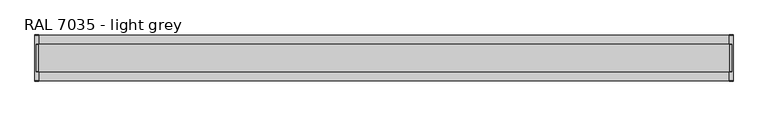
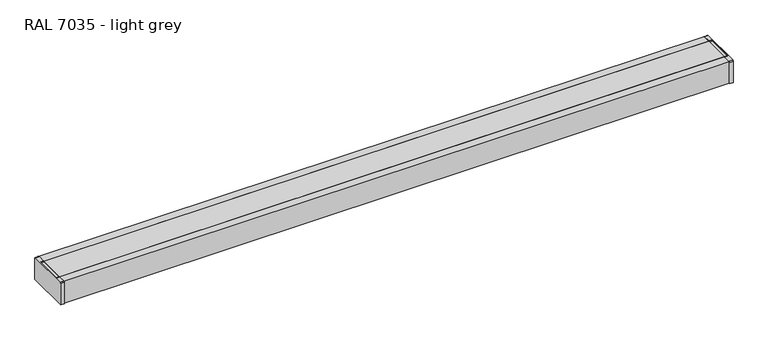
"""IFC4 building model written with IfcOpenShell, lengths in millimetres: proxy geometry, Electrical_Installations_Hager_BRP-Lid-End-Cap-One-Compartment : RAL 7035 - light grey."""

from ifc_helpers import new_model, si_unit, frame, origin, place, context, project, spatial, polyline, circle_curve, outline, extrude, source, transform, mapped, element, save
from ifc_brep_helpers import plane_surface, cylinder_surface, revolved_surface, advanced_brep


def ral_7035_light_grey_59abf085(model_context):
    return source(origin(), model_context, "Body", "SolidModel", [
        advanced_brep(
        [(2001.7057953, 66.25, 30.95), (2001.7057953, 63.25, 33.95), (2001.7057953, -63.25, 33.95), (2001.7057953, -66.25, 30.95), (2001.7057953, -66.25, -36.15), (2001.7057953, 66.25, -36.15), (2000.0, 41.3486227, 33.95), (2000.0, 39.7831004, 32.5816692), (2000.0, 38.8540942, 31.8477982), (2000.0, -38.8540942, 31.8477982), (2000.0, -39.8003006, 32.7991169), (2000.0, -40.8849518, 33.95), (2000.0, -65.25, -36.15), (2000.0, -65.25, 30.893231), (2000.0, -63.2258096, 32.9174214), (2000.0, -41.5797272, 32.9174214), (2000.0, -40.6819986, 32.1076317), (2000.0, -38.8211594, 30.840625), (2000.0, 38.8211594, 30.840625), (2000.0, 40.6819986, 32.1076317), (2000.0, 41.5797272, 32.9174214), (2000.0, 63.1823332, 32.9174214), (2000.0, 65.2065236, 30.893231), (2000.0, 65.2065236, -36.15), (1990.7057953, 66.25, -36.15), (1990.7057953, 66.25, 30.9198795), (2000.0, 66.25, 30.9198795), (2000.0, -66.25, 30.95), (1990.7057953, -66.25, 30.9423146), (1990.7057953, -66.25, -36.15), (2000.0, 63.25, 33.95), (1990.7057953, 63.2198795, 33.95), (1990.7057953, 41.3486227, 33.95), (1990.7057953, -40.8849518, 33.95), (1990.7057953, -63.2423146, 33.95), (2000.0, -63.2423146, 33.95), (1990.7057953, 38.8540942, 31.8477982), (1990.7057953, 39.7831004, 32.5816692), (1990.7057953, 65.2065236, -36.15), (1990.7057953, 65.2065236, 30.893231), (1990.7057953, 63.1823332, 32.9174214), (1990.7057953, 41.5797272, 32.9174214), (1990.7057953, 40.6819986, 32.1076317), (1990.7057953, 38.8211594, 30.840625), (1990.7057953, -38.8211594, 30.840625), (1990.7057953, -40.6819986, 32.1076317), (1990.7057953, -41.5797272, 32.9174214), (1990.7057953, -63.2258096, 32.9174214), (1990.7057953, -65.25, 30.893231), (1990.7057953, -65.25, -36.15), (1990.7057953, -39.8003006, 32.7991169), (1990.7057953, -38.8540942, 31.8477982)],
        [
            (0, 1, circle_curve(frame((2001.7057953, 63.25, 30.95), z_axis=(1.0, 0.0, 0.0), x_axis=(0.0, 1.0, 0.0)), 3.0)),
            (1, 2),
            (2, 3, circle_curve(frame((2001.7057953, -63.25, 30.95), z_axis=(1.0, 0.0, 0.0), x_axis=(0.0, 1.0, 0.0)), 3.0)),
            (3, 4),
            (4, 5),
            (5, 0),
            (6, 7, circle_curve(frame((2000.0, 41.5321879, 32.16025), z_axis=(1.0, 0.0, 0.0), x_axis=(0.0, 0.0, -1.0)), 1.799139)),
            (7, 8, circle_curve(frame((2000.0, 38.8540942, 32.8027473), z_axis=(-1.0, 0.0, 0.0), x_axis=(0.0, 0.0, -1.0)), 0.9549491)),
            (8, 9),
            (9, 10, circle_curve(frame((2000.0, -38.8540942, 32.7940183), z_axis=(-1.0, 0.0, 0.0), x_axis=(0.0, 0.0, -1.0)), 0.9462201)),
            (10, 11, circle_curve(frame((2000.0, -41.5602767, 32.2269822), z_axis=(1.0, 0.0, 0.0), x_axis=(0.0, 0.0, -1.0)), 1.8506361)),
            (11, 6),
            (12, 13),
            (13, 14, circle_curve(frame((2000.0, -63.2258096, 30.893231), z_axis=(-1.0, 0.0, 0.0), x_axis=(0.0, 0.0, -1.0)), 2.0241904)),
            (14, 15),
            (15, 16, circle_curve(frame((2000.0, -41.5797272, 32.014918), z_axis=(-1.0, 0.0, 0.0), x_axis=(0.0, 0.0, -1.0)), 0.9025034)),
            (16, 17, circle_curve(frame((2000.0, -38.8211594, 32.8406257), z_axis=(1.0, 0.0, 0.0), x_axis=(0.0, 0.0, -1.0)), 2.0000007)),
            (17, 18),
            (18, 19, circle_curve(frame((2000.0, 38.8211594, 32.8406257), z_axis=(1.0, 0.0, 0.0), x_axis=(0.0, 0.0, -1.0)), 2.0000007)),
            (19, 20, circle_curve(frame((2000.0, 41.5797272, 32.014918), z_axis=(-1.0, 0.0, 0.0), x_axis=(0.0, 0.0, -1.0)), 0.9025034)),
            (20, 21),
            (21, 22, circle_curve(frame((2000.0, 63.1823332, 30.893231), z_axis=(-1.0, 0.0, 0.0), x_axis=(0.0, 0.0, -1.0)), 2.0241904)),
            (22, 23),
            (23, 12),
            (5, 24),
            (24, 25),
            (25, 26),
            (26, 0),
            (3, 27),
            (27, 28),
            (28, 29),
            (29, 4),
            (1, 30),
            (30, 31),
            (31, 32),
            (32, 6),
            (11, 33),
            (33, 34),
            (34, 35),
            (35, 2),
            (36, 37, circle_curve(frame((1990.7057953, 38.8540942, 32.8027473), z_axis=(1.0, 0.0, 0.0), x_axis=(0.0, 0.0, -1.0)), 0.9549491)),
            (37, 32, circle_curve(frame((1990.7057953, 41.5321879, 32.16025), z_axis=(-1.0, 0.0, 0.0), x_axis=(0.0, 0.0, -1.0)), 1.799139)),
            (31, 25, circle_curve(frame((1990.7057953, 63.2198795, 30.9198795), z_axis=(-1.0, 0.0, 0.0), x_axis=(0.0, 0.0, -1.0)), 3.0301205)),
            (24, 38),
            (38, 39),
            (39, 40, circle_curve(frame((1990.7057953, 63.1823332, 30.893231), z_axis=(1.0, 0.0, 0.0), x_axis=(0.0, 0.0, -1.0)), 2.0241904)),
            (40, 41),
            (41, 42, circle_curve(frame((1990.7057953, 41.5797272, 32.014918), z_axis=(1.0, 0.0, 0.0), x_axis=(0.0, 0.0, -1.0)), 0.9025034)),
            (42, 43, circle_curve(frame((1990.7057953, 38.8211594, 32.8406257), z_axis=(-1.0, 0.0, 0.0), x_axis=(0.0, 0.0, -1.0)), 2.0000007)),
            (43, 44),
            (44, 45, circle_curve(frame((1990.7057953, -38.8211594, 32.8406257), z_axis=(-1.0, 0.0, 0.0), x_axis=(0.0, 0.0, -1.0)), 2.0000007)),
            (45, 46, circle_curve(frame((1990.7057953, -41.5797272, 32.014918), z_axis=(1.0, 0.0, 0.0), x_axis=(0.0, 0.0, -1.0)), 0.9025034)),
            (46, 47),
            (47, 48, circle_curve(frame((1990.7057953, -63.2258096, 30.893231), z_axis=(1.0, 0.0, 0.0), x_axis=(0.0, 0.0, -1.0)), 2.0241904)),
            (48, 49),
            (49, 29),
            (28, 34, circle_curve(frame((1990.7057953, -63.2423146, 30.9423146), z_axis=(-1.0, 0.0, 0.0), x_axis=(0.0, 0.0, -1.0)), 3.0076854)),
            (33, 50, circle_curve(frame((1990.7057953, -41.5602767, 32.2269822), z_axis=(-1.0, 0.0, 0.0), x_axis=(0.0, 0.0, -1.0)), 1.8506361)),
            (50, 51, circle_curve(frame((1990.7057953, -38.8540942, 32.7940183), z_axis=(1.0, 0.0, 0.0), x_axis=(0.0, 0.0, -1.0)), 0.9462201)),
            (51, 36),
            (36, 8),
            (7, 37),
            (30, 26, circle_curve(frame((2000.0, 63.2198795, 30.9198795), z_axis=(-1.0, 0.0, 0.0), x_axis=(0.0, 0.0, -1.0)), 3.0301205)),
            (38, 23),
            (22, 39),
            (21, 40),
            (20, 41),
            (19, 42),
            (18, 43),
            (17, 44),
            (16, 45),
            (15, 46),
            (14, 47),
            (13, 48),
            (12, 49),
            (27, 35, circle_curve(frame((2000.0, -63.2423146, 30.9423146), z_axis=(-1.0, 0.0, 0.0), x_axis=(0.0, 0.0, -1.0)), 3.0076854)),
            (10, 50),
            (9, 51),
        ],
        [
            plane_surface(frame((2001.7057953, 66.25, -36.15), z_axis=(1.0, 0.0, 0.0), x_axis=(0.0, 0.0, -1.0))),
            plane_surface(frame((2000.0, 66.25, -36.15), z_axis=(-1.0, 0.0, 0.0), x_axis=(0.0, 0.0, 1.0))),
            plane_surface(frame((2001.7057953, 66.25, 30.95), z_axis=(0.0, 1.0, 0.0), x_axis=(-1.0, 0.0, 0.0))),
            plane_surface(frame((2001.7057953, -66.25, -36.15), z_axis=(0.0, -1.0, 0.0), x_axis=(-1.0, 0.0, 0.0))),
            plane_surface(frame((2001.7057953, -63.25, 33.95), z_axis=(0.0, 0.0, 1.0), x_axis=(-1.0, 0.0, 0.0))),
            plane_surface(frame((1990.7057953, -32.5, -0.05), z_axis=(-1.0, 0.0, 0.0), x_axis=(0.0, 0.0, -1.0))),
            revolved_surface(polyline([(1990.7057953, 38.8540942, 31.8477982), (2000.0, 38.8540942, 31.8477982)]), (2000.0, 38.8540942, 32.8027473), (-1.0, 0.0, 0.0)),
            cylinder_surface(frame((2000.0, 41.5321879, 32.16025), z_axis=(1.0, 0.0, 0.0), x_axis=(0.0, 0.0, -1.0)), 1.799139),
            cylinder_surface(frame((2000.0, 63.2198795, 30.9198795), z_axis=(1.0, 0.0, 0.0), x_axis=(0.0, 0.0, -1.0)), 3.0301205),
            plane_surface(frame((2000.0, 65.2065236, -36.15), z_axis=(0.0, -1.0, 0.0), x_axis=(-1.0, 0.0, 0.0))),
            revolved_surface(polyline([(1990.7057953, 63.1823332, 28.869040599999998), (2000.0, 63.1823332, 28.869040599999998)]), (2000.0, 63.1823332, 30.893231), (-1.0, 0.0, 0.0)),
            plane_surface(frame((2000.0, 63.1823332, 32.9174214), z_axis=(0.0, 0.0, -1.0), x_axis=(-1.0, 0.0, 0.0))),
            revolved_surface(polyline([(1990.7057953, 41.5797272, 31.1124146), (2000.0, 41.5797272, 31.1124146)]), (2000.0, 41.5797272, 32.014918), (-1.0, 0.0, 0.0)),
            cylinder_surface(frame((2000.0, 38.8211594, 32.8406257), z_axis=(1.0, 0.0, 0.0), x_axis=(0.0, 0.0, -1.0)), 2.0000007),
            plane_surface(frame((2000.0, 38.8211594, 30.840625), z_axis=(0.0, 0.0, -1.0), x_axis=(-1.0, 0.0, 0.0))),
            cylinder_surface(frame((2000.0, -38.8211594, 32.8406257), z_axis=(1.0, 0.0, 0.0), x_axis=(0.0, 0.0, -1.0)), 2.0000007),
            revolved_surface(polyline([(1990.7057953, -41.5797272, 31.1124146), (2000.0, -41.5797272, 31.1124146)]), (2000.0, -41.5797272, 32.014918), (-1.0, 0.0, 0.0)),
            plane_surface(frame((2000.0, -41.5797272, 32.9174214), z_axis=(0.0, 0.0, -1.0), x_axis=(-1.0, 0.0, 0.0))),
            revolved_surface(polyline([(1990.7057953, -63.2258096, 28.869040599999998), (2000.0, -63.2258096, 28.869040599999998)]), (2000.0, -63.2258096, 30.893231), (-1.0, 0.0, 0.0)),
            plane_surface(frame((2000.0, -65.25, 30.893231), z_axis=(0.0, 1.0, 0.0), x_axis=(-1.0, 0.0, 0.0))),
            cylinder_surface(frame((2000.0, -63.2423146, 30.9423146), z_axis=(1.0, 0.0, 0.0), x_axis=(0.0, 0.0, -1.0)), 3.0076854),
            cylinder_surface(frame((2000.0, -41.5602767, 32.2269822), z_axis=(1.0, 0.0, 0.0), x_axis=(0.0, 0.0, -1.0)), 1.8506361),
            revolved_surface(polyline([(1990.7057953, -38.8540942, 31.847798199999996), (2000.0, -38.8540942, 31.847798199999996)]), (2000.0, -38.8540942, 32.7940183), (-1.0, 0.0, 0.0)),
            plane_surface(frame((2000.0, -38.8540942, 31.8477982), z_axis=(0.0, 0.0, 1.0), x_axis=(-1.0, 0.0, 0.0))),
            cylinder_surface(frame((2000.0, -63.25, 30.95), z_axis=(1.0, 0.0, 0.0), x_axis=(0.0, 1.0, 0.0)), 3.0),
            cylinder_surface(frame((2000.0, 63.25, 30.95), z_axis=(1.0, 0.0, 0.0), x_axis=(0.0, 1.0, 0.0)), 3.0),
            plane_surface(frame((2001.7057953, 66.25, -36.15), z_axis=(0.0, 0.0, -1.0), x_axis=(-1.0, 0.0, 0.0))),
        ],
        [
            (0, [[1, 2, 3, 4, 5, 6]]),
            (1, [[7, 8, 9, 10, 11, 12]]),
            (1, [[13, 14, 15, 16, 17, 18, 19, 20, 21, 22, 23, 24]]),
            (2, [[25, 26, 27, 28, -6]]),
            (3, [[29, 30, 31, 32, -4]]),
            (4, [[33, 34, 35, 36, -12, 37, 38, 39, 40, -2]]),
            (5, [[41, 42, -35, 43, -26, 44, 45, 46, 47, 48, 49, 50, 51, 52, 53, 54, 55, 56, -31, 57, -38, 58, 59, 60]]),
            (6, [[61, -8, 62, -41]]),
            (7, [[-62, -7, -36, -42]]),
            (8, [[-34, 63, -27, -43]]),
            (9, [[64, -23, 65, -45]]),
            (10, [[-65, -22, 66, -46]]),
            (11, [[-66, -21, 67, -47]]),
            (12, [[-67, -20, 68, -48]]),
            (13, [[-68, -19, 69, -49]]),
            (14, [[-69, -18, 70, -50]]),
            (15, [[-70, -17, 71, -51]]),
            (16, [[-71, -16, 72, -52]]),
            (17, [[-72, -15, 73, -53]]),
            (18, [[-73, -14, 74, -54]]),
            (19, [[-74, -13, 75, -55]]),
            (20, [[-30, 76, -39, -57]]),
            (21, [[-37, -11, 77, -58]]),
            (22, [[-77, -10, 78, -59]]),
            (23, [[-78, -9, -61, -60]]),
            (24, [[-40, -76, -29, -3]]),
            (25, [[-28, -63, -33, -1]]),
            (26, [[-56, -75, -24, -64, -44, -25, -5, -32]]),
        ],
    ),
        advanced_brep(
        [(-1.7057953, 66.25, 30.95), (-1.7057953, 66.25, -36.15), (-1.7057953, -66.25, -36.15), (-1.7057953, -66.25, 30.95), (-1.7057953, -63.25, 33.95), (-1.7057953, 63.25, 33.95), (0.0, 41.3486227, 33.95), (0.0, -40.8849518, 33.95), (0.0, -39.8003006, 32.7991169), (0.0, -38.8540942, 31.8477982), (0.0, 38.8540942, 31.8477982), (0.0, 39.7831004, 32.5816692), (0.0, -65.25, -36.15), (0.0, 65.2065236, -36.15), (0.0, 65.2065236, 30.893231), (0.0, 63.1823332, 32.9174214), (0.0, 41.5797272, 32.9174214), (0.0, 40.6819986, 32.1076317), (0.0, 38.8211594, 30.840625), (0.0, -38.8211594, 30.840625), (0.0, -40.6819986, 32.1076317), (0.0, -41.5797272, 32.9174214), (0.0, -63.2258096, 32.9174214), (0.0, -65.25, 30.893231), (0.0, 66.25, 30.95), (9.2942047, 66.25, 30.9198795), (9.2942047, 66.25, -36.15), (9.2942047, -66.25, -36.15), (9.2942047, -66.25, 30.9423146), (0.0, -66.25, 30.9423146), (0.0, -63.25, 33.95), (9.2942047, -63.2423146, 33.95), (9.2942047, -40.8849518, 33.95), (9.2942047, 41.3486227, 33.95), (9.2942047, 63.2198795, 33.95), (0.0, 63.2198795, 33.95), (9.2942047, 38.8540942, 31.8477982), (9.2942047, -38.8540942, 31.8477982), (9.2942047, -39.8003006, 32.7991169), (9.2942047, -65.25, -36.15), (9.2942047, -65.25, 30.893231), (9.2942047, -63.2258096, 32.9174214), (9.2942047, -41.5797272, 32.9174214), (9.2942047, -40.6819986, 32.1076317), (9.2942047, -38.8211594, 30.840625), (9.2942047, 38.8211594, 30.840625), (9.2942047, 40.6819986, 32.1076317), (9.2942047, 41.5797272, 32.9174214), (9.2942047, 63.1823332, 32.9174214), (9.2942047, 65.2065236, 30.893231), (9.2942047, 65.2065236, -36.15), (9.2942047, 39.7831004, 32.5816692)],
        [
            (0, 1),
            (1, 2),
            (2, 3),
            (3, 4, circle_curve(frame((-1.7057953, -63.25, 30.95), z_axis=(-1.0, 0.0, 0.0), x_axis=(0.0, 1.0, 0.0)), 3.0)),
            (4, 5),
            (5, 0, circle_curve(frame((-1.7057953, 63.25, 30.95), z_axis=(-1.0, 0.0, 0.0), x_axis=(0.0, 1.0, 0.0)), 3.0)),
            (6, 7),
            (7, 8, circle_curve(frame((0.0, -41.5602767, 32.2269822), z_axis=(-1.0, 0.0, 0.0), x_axis=(0.0, 0.0, -1.0)), 1.8506361)),
            (8, 9, circle_curve(frame((0.0, -38.8540942, 32.7940183), z_axis=(1.0, 0.0, 0.0), x_axis=(0.0, 0.0, -1.0)), 0.9462201)),
            (9, 10),
            (10, 11, circle_curve(frame((0.0, 38.8540942, 32.8027473), z_axis=(1.0, 0.0, 0.0), x_axis=(0.0, 0.0, -1.0)), 0.9549491)),
            (11, 6, circle_curve(frame((0.0, 41.5321879, 32.16025), z_axis=(-1.0, 0.0, 0.0), x_axis=(0.0, 0.0, -1.0)), 1.799139)),
            (12, 13),
            (13, 14),
            (14, 15, circle_curve(frame((0.0, 63.1823332, 30.893231), z_axis=(1.0, 0.0, 0.0), x_axis=(0.0, 0.0, -1.0)), 2.0241904)),
            (15, 16),
            (16, 17, circle_curve(frame((0.0, 41.5797272, 32.014918), z_axis=(1.0, 0.0, 0.0), x_axis=(0.0, 0.0, -1.0)), 0.9025034)),
            (17, 18, circle_curve(frame((0.0, 38.8211594, 32.8406257), z_axis=(-1.0, 0.0, 0.0), x_axis=(0.0, 0.0, -1.0)), 2.0000007)),
            (18, 19),
            (19, 20, circle_curve(frame((0.0, -38.8211594, 32.8406257), z_axis=(-1.0, 0.0, 0.0), x_axis=(0.0, 0.0, -1.0)), 2.0000007)),
            (20, 21, circle_curve(frame((0.0, -41.5797272, 32.014918), z_axis=(1.0, 0.0, 0.0), x_axis=(0.0, 0.0, -1.0)), 0.9025034)),
            (21, 22),
            (22, 23, circle_curve(frame((0.0, -63.2258096, 30.893231), z_axis=(1.0, 0.0, 0.0), x_axis=(0.0, 0.0, -1.0)), 2.0241904)),
            (23, 12),
            (0, 24),
            (24, 25),
            (25, 26),
            (26, 1),
            (2, 27),
            (27, 28),
            (28, 29),
            (29, 3),
            (4, 30),
            (30, 31),
            (31, 32),
            (32, 7),
            (6, 33),
            (33, 34),
            (34, 35),
            (35, 5),
            (36, 37),
            (37, 38, circle_curve(frame((9.2942047, -38.8540942, 32.7940183), z_axis=(-1.0, 0.0, 0.0), x_axis=(0.0, 0.0, -1.0)), 0.9462201)),
            (38, 32, circle_curve(frame((9.2942047, -41.5602767, 32.2269822), z_axis=(1.0, 0.0, 0.0), x_axis=(0.0, 0.0, -1.0)), 1.8506361)),
            (31, 28, circle_curve(frame((9.2942047, -63.2423146, 30.9423146), z_axis=(1.0, 0.0, 0.0), x_axis=(0.0, 0.0, -1.0)), 3.0076854)),
            (27, 39),
            (39, 40),
            (40, 41, circle_curve(frame((9.2942047, -63.2258096, 30.893231), z_axis=(-1.0, 0.0, 0.0), x_axis=(0.0, 0.0, -1.0)), 2.0241904)),
            (41, 42),
            (42, 43, circle_curve(frame((9.2942047, -41.5797272, 32.014918), z_axis=(-1.0, 0.0, 0.0), x_axis=(0.0, 0.0, -1.0)), 0.9025034)),
            (43, 44, circle_curve(frame((9.2942047, -38.8211594, 32.8406257), z_axis=(1.0, 0.0, 0.0), x_axis=(0.0, 0.0, -1.0)), 2.0000007)),
            (44, 45),
            (45, 46, circle_curve(frame((9.2942047, 38.8211594, 32.8406257), z_axis=(1.0, 0.0, 0.0), x_axis=(0.0, 0.0, -1.0)), 2.0000007)),
            (46, 47, circle_curve(frame((9.2942047, 41.5797272, 32.014918), z_axis=(-1.0, 0.0, 0.0), x_axis=(0.0, 0.0, -1.0)), 0.9025034)),
            (47, 48),
            (48, 49, circle_curve(frame((9.2942047, 63.1823332, 30.893231), z_axis=(-1.0, 0.0, 0.0), x_axis=(0.0, 0.0, -1.0)), 2.0241904)),
            (49, 50),
            (50, 26),
            (25, 34, circle_curve(frame((9.2942047, 63.2198795, 30.9198795), z_axis=(1.0, 0.0, 0.0), x_axis=(0.0, 0.0, -1.0)), 3.0301205)),
            (33, 51, circle_curve(frame((9.2942047, 41.5321879, 32.16025), z_axis=(1.0, 0.0, 0.0), x_axis=(0.0, 0.0, -1.0)), 1.799139)),
            (51, 36, circle_curve(frame((9.2942047, 38.8540942, 32.8027473), z_axis=(-1.0, 0.0, 0.0), x_axis=(0.0, 0.0, -1.0)), 0.9549491)),
            (51, 11),
            (10, 36),
            (24, 35, circle_curve(frame((0.0, 63.2198795, 30.9198795), z_axis=(1.0, 0.0, 0.0), x_axis=(0.0, 0.0, -1.0)), 3.0301205)),
            (49, 14),
            (13, 50),
            (48, 15),
            (47, 16),
            (46, 17),
            (45, 18),
            (44, 19),
            (43, 20),
            (42, 21),
            (41, 22),
            (40, 23),
            (39, 12),
            (30, 29, circle_curve(frame((0.0, -63.2423146, 30.9423146), z_axis=(1.0, 0.0, 0.0), x_axis=(0.0, 0.0, -1.0)), 3.0076854)),
            (38, 8),
            (37, 9),
        ],
        [
            plane_surface(frame((-1.7057953, 66.25, -36.15), z_axis=(-1.0, 0.0, 0.0), x_axis=(0.0, 0.0, -1.0))),
            plane_surface(frame((0.0, 66.25, -36.15), z_axis=(1.0, 0.0, 0.0), x_axis=(0.0, 0.0, 1.0))),
            plane_surface(frame((-1.7057953, 66.25, 30.95), z_axis=(0.0, 1.0, 0.0), x_axis=(1.0, 0.0, 0.0))),
            plane_surface(frame((-1.7057953, -66.25, -36.15), z_axis=(0.0, -1.0, 0.0), x_axis=(1.0, 0.0, 0.0))),
            plane_surface(frame((-1.7057953, -63.25, 33.95), z_axis=(0.0, 0.0, 1.0), x_axis=(1.0, 0.0, 0.0))),
            plane_surface(frame((9.2942047, -32.5, -0.05), z_axis=(1.0, 0.0, 0.0), x_axis=(0.0, 0.0, -1.0))),
            revolved_surface(polyline([(9.2942047, 38.8540942, 31.8477982), (0.0, 38.8540942, 31.8477982)]), (0.0, 38.8540942, 32.8027473), (1.0, 0.0, 0.0)),
            cylinder_surface(frame((0.0, 41.5321879, 32.16025), z_axis=(-1.0, 0.0, 0.0), x_axis=(0.0, 0.0, -1.0)), 1.799139),
            cylinder_surface(frame((0.0, 63.2198795, 30.9198795), z_axis=(-1.0, 0.0, 0.0), x_axis=(0.0, 0.0, -1.0)), 3.0301205),
            plane_surface(frame((0.0, 65.2065236, -36.15), z_axis=(0.0, -1.0, 0.0), x_axis=(1.0, 0.0, 0.0))),
            revolved_surface(polyline([(9.2942047, 63.1823332, 28.869040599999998), (0.0, 63.1823332, 28.869040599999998)]), (0.0, 63.1823332, 30.893231), (1.0, 0.0, 0.0)),
            plane_surface(frame((0.0, 63.1823332, 32.9174214), z_axis=(0.0, 0.0, -1.0), x_axis=(1.0, 0.0, 0.0))),
            revolved_surface(polyline([(9.2942047, 41.5797272, 31.1124146), (0.0, 41.5797272, 31.1124146)]), (0.0, 41.5797272, 32.014918), (1.0, 0.0, 0.0)),
            cylinder_surface(frame((0.0, 38.8211594, 32.8406257), z_axis=(-1.0, 0.0, 0.0), x_axis=(0.0, 0.0, -1.0)), 2.0000007),
            plane_surface(frame((0.0, 38.8211594, 30.840625), z_axis=(0.0, 0.0, -1.0), x_axis=(1.0, 0.0, 0.0))),
            cylinder_surface(frame((0.0, -38.8211594, 32.8406257), z_axis=(-1.0, 0.0, 0.0), x_axis=(0.0, 0.0, -1.0)), 2.0000007),
            revolved_surface(polyline([(9.2942047, -41.5797272, 31.1124146), (0.0, -41.5797272, 31.1124146)]), (0.0, -41.5797272, 32.014918), (1.0, 0.0, 0.0)),
            plane_surface(frame((0.0, -41.5797272, 32.9174214), z_axis=(0.0, 0.0, -1.0), x_axis=(1.0, 0.0, 0.0))),
            revolved_surface(polyline([(9.2942047, -63.2258096, 28.869040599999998), (0.0, -63.2258096, 28.869040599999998)]), (0.0, -63.2258096, 30.893231), (1.0, 0.0, 0.0)),
            plane_surface(frame((0.0, -65.25, 30.893231), z_axis=(0.0, 1.0, 0.0), x_axis=(1.0, 0.0, 0.0))),
            cylinder_surface(frame((0.0, -63.2423146, 30.9423146), z_axis=(-1.0, 0.0, 0.0), x_axis=(0.0, 0.0, -1.0)), 3.0076854),
            cylinder_surface(frame((0.0, -41.5602767, 32.2269822), z_axis=(-1.0, 0.0, 0.0), x_axis=(0.0, 0.0, -1.0)), 1.8506361),
            revolved_surface(polyline([(9.2942047, -38.8540942, 31.847798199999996), (0.0, -38.8540942, 31.847798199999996)]), (0.0, -38.8540942, 32.7940183), (1.0, 0.0, 0.0)),
            plane_surface(frame((0.0, -38.8540942, 31.8477982), z_axis=(0.0, 0.0, 1.0), x_axis=(1.0, 0.0, 0.0))),
            cylinder_surface(frame((0.0, -63.25, 30.95), z_axis=(-1.0, 0.0, 0.0), x_axis=(0.0, 1.0, 0.0)), 3.0),
            cylinder_surface(frame((0.0, 63.25, 30.95), z_axis=(-1.0, 0.0, 0.0), x_axis=(0.0, 1.0, 0.0)), 3.0),
            plane_surface(frame((-1.7057953, 66.25, -36.15), z_axis=(0.0, 0.0, -1.0), x_axis=(1.0, 0.0, 0.0))),
        ],
        [
            (0, [[1, 2, 3, 4, 5, 6]]),
            (1, [[7, 8, 9, 10, 11, 12]]),
            (1, [[13, 14, 15, 16, 17, 18, 19, 20, 21, 22, 23, 24]]),
            (2, [[-1, 25, 26, 27, 28]]),
            (3, [[-3, 29, 30, 31, 32]]),
            (4, [[-5, 33, 34, 35, 36, -7, 37, 38, 39, 40]]),
            (5, [[41, 42, 43, -35, 44, -30, 45, 46, 47, 48, 49, 50, 51, 52, 53, 54, 55, 56, 57, -27, 58, -38, 59, 60]]),
            (6, [[-60, 61, -11, 62]]),
            (7, [[-59, -37, -12, -61]]),
            (8, [[-58, -26, 63, -39]]),
            (9, [[-56, 64, -14, 65]]),
            (10, [[-55, 66, -15, -64]]),
            (11, [[-54, 67, -16, -66]]),
            (12, [[-53, 68, -17, -67]]),
            (13, [[-52, 69, -18, -68]]),
            (14, [[-51, 70, -19, -69]]),
            (15, [[-50, 71, -20, -70]]),
            (16, [[-49, 72, -21, -71]]),
            (17, [[-48, 73, -22, -72]]),
            (18, [[-47, 74, -23, -73]]),
            (19, [[-46, 75, -24, -74]]),
            (20, [[-44, -34, 76, -31]]),
            (21, [[-43, 77, -8, -36]]),
            (22, [[-42, 78, -9, -77]]),
            (23, [[-41, -62, -10, -78]]),
            (24, [[-4, -32, -76, -33]]),
            (25, [[-6, -40, -63, -25]]),
            (26, [[-29, -2, -28, -57, -65, -13, -75, -45]]),
        ],
    ),
        extrude(outline(polyline([(40.0, 18.6492509), (37.5361498, 18.6492509), (37.5361498, 30.0), (-37.5361498, 30.0), (-37.5361498, 18.6492509), (-40.0, 18.6492509), (-40.0, 33.0), (40.0, 33.0), (40.0, 18.6492509)])), frame((9.0, 0.0, 0.0), z_axis=(1.0, 0.0, 0.0), x_axis=(0.0, 1.0, 0.0)), (0.0, 0.0, 1.0), 1982.0),
        extrude(outline(polyline([(65.0, 33.0), (65.0, -35.0582587), (-65.0, -35.0582587), (-65.0, 33.0), (-40.5, 33.0), (-40.5, 16.0), (-36.578125, 16.0), (-36.578125, 24.0415809), (-35.3, 24.0415809), (-35.3, 14.0), (-42.5, 14.0), (-42.5, 30.0), (-62.0, 30.0), (-62.0, -32.0582587), (62.0, -32.0582587), (62.0, 30.0), (42.5, 30.0), (42.5, 14.0), (35.221875, 14.0), (35.221875, 24.0415809), (36.5, 24.0415809), (36.5, 16.0), (40.5, 16.0), (40.5, 33.0), (65.0, 33.0)])), frame((0.0, 0.0, 0.0), z_axis=(1.0, 0.0, 0.0), x_axis=(0.0, 1.0, 0.0)), (0.0, 0.0, 1.0), 2000.0),
    ])


if __name__ == "__main__":
    model = new_model("IFC4")
    model_context = context("Model", 3, world=origin())
    ifc_project = project(units=[si_unit("LENGTHUNIT", "METRE", prefix="MILLI")], contexts=[model_context])
    site = spatial("IfcSite", under=ifc_project)
    building = spatial("IfcBuilding", under=site)
    placement = place(None, origin())
    ral_7035_light_grey_shape = ral_7035_light_grey_59abf085(model_context)
    element("IfcBuildingElementProxy", 1, Name="Electrical_Installations_Hager_BRP-Lid-End-Cap-One-Compartment : RAL 7035 - light grey", ObjectType="Electrical_Installations_Hager_BRP-Lid-End-Cap-One-Compartment : RAL 7035 - light grey", at=placement, inside=building, context=model_context, shape_type="MappedRepresentation", body=[
        mapped(ral_7035_light_grey_shape, transform((0.0, 0.0, 0.0), x_axis=(1.0, 0.0, 0.0), y_axis=(0.0, 1.0, 0.0), z_axis=(0.0, 0.0, 1.0))),
    ])
    save(model, "model.ifc")
